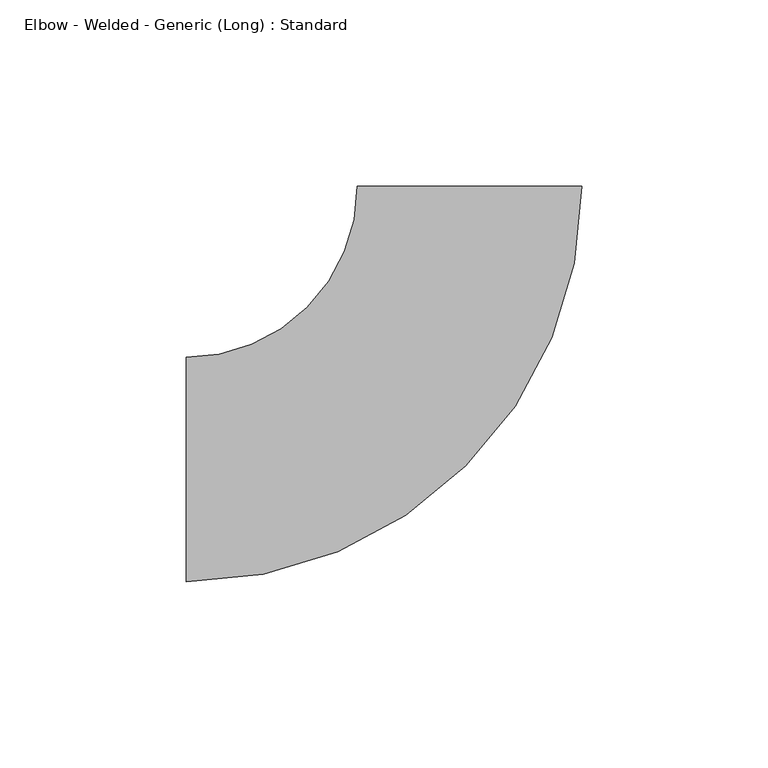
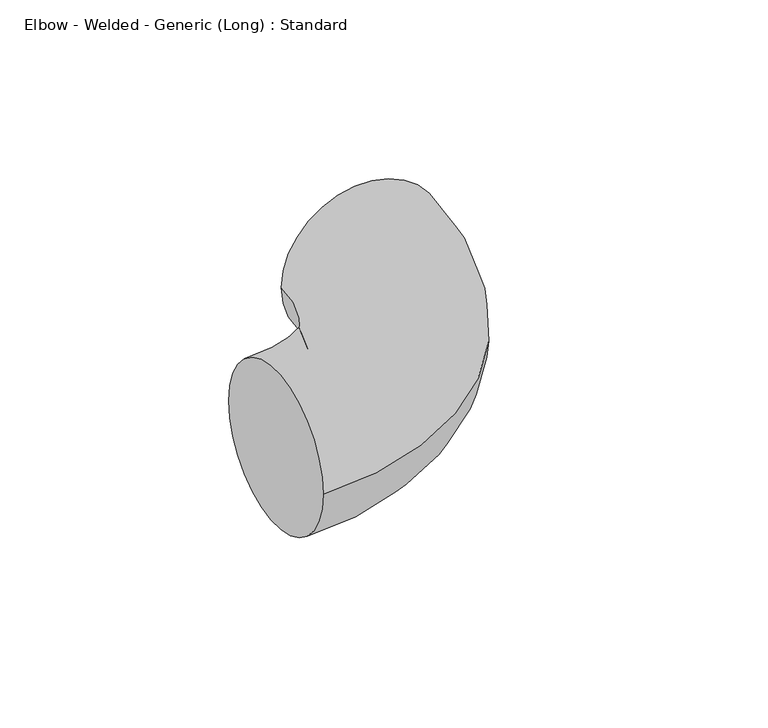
"""IFC4 building model written with IfcOpenShell, lengths in millimetres: pipe fitting geometry, Elbow - Welded - Generic (Long) : Standard."""

import ifcopenshell
import ifcopenshell.guid

model = None  # the IFC model being written
_history = None  # IfcOwnerHistory: only IFC2X3 demands one
_inside = {}  # id of a spatial element -> (the spatial element, [elements in it])
_under = {}  # id of a project, library or spatial element -> (it, [spatial elements below it])
_declared = {}  # id of a project -> (the project, [libraries it declares])
_typed = {}  # id of a type object -> (the type object, [elements of that type])
_made_of = {}  # id of a material, layer set ... -> (it, [elements and type objects made of it])


def new_model(schema):
    """Start an empty IFC model of exactly this schema.

    Asked for "IFC4X3", IfcOpenShell would pick the latest addendum, in which some entities
    have other attributes; the version numbers below select the first issue.
    IFC2X3 requires an IfcOwnerHistory on every rooted entity: one is made here for all.
    """
    global model, _history
    if schema == "IFC4X3":
        model = ifcopenshell.file(schema_version=(4, 3, 0, 0))
    else:
        model = ifcopenshell.file(schema=schema)
    _inside.clear()
    _under.clear()
    _declared.clear()
    _typed.clear()
    _made_of.clear()
    _history = None
    if model.schema == "IFC2X3":
        org = make("IfcOrganization", Name="unknown")
        user = make(
            "IfcPersonAndOrganization",
            ThePerson=make("IfcPerson", FamilyName="unknown"),
            TheOrganization=org,
        )
        app = make(
            "IfcApplication",
            ApplicationDeveloper=org,
            Version="unknown",
            ApplicationFullName="unknown",
            ApplicationIdentifier="unknown",
        )
        _history = make(
            "IfcOwnerHistory",
            OwningUser=user,
            OwningApplication=app,
            ChangeAction="ADDED",
            CreationDate=0,
        )
    return model


def make(cls, **values):
    """One entity of the class cls with the attributes given. An attribute that is None is left unset."""
    return model.create_entity(
        cls, **{name: value for name, value in values.items() if value is not None}
    )


def rooted(cls, **values):
    """An entity with a GlobalId (a new one), such as an element, a storey or a relation."""
    return make(cls, GlobalId=ifcopenshell.guid.new(), OwnerHistory=_history, **values)


def si_unit(unit_type, name, prefix=None):
    """IfcSIUnit, for example si_unit("LENGTHUNIT", "METRE", prefix="MILLI")."""
    return make("IfcSIUnit", UnitType=unit_type, Prefix=prefix, Name=name)


def assignment(units):
    """IfcUnitAssignment: the units of a project."""
    return None if units is None else make("IfcUnitAssignment", Units=units)


def point(xyz):
    """IfcCartesianPoint."""
    return None if xyz is None else make("IfcCartesianPoint", Coordinates=xyz)


def direction(xyz):
    """IfcDirection."""
    return None if xyz is None else make("IfcDirection", DirectionRatios=xyz)


def frame(location, z_axis=None, x_axis=None):
    """IfcAxis2Placement3D, a coordinate frame: its origin and axes. An axis left out is left unset."""
    return make(
        "IfcAxis2Placement3D",
        Location=point(location),
        Axis=direction(z_axis),
        RefDirection=direction(x_axis),
    )


def origin():
    """The frame at (0, 0, 0) with its axes left unset."""
    return frame((0.0, 0.0, 0.0))


def place(relative_to, where):
    """IfcLocalPlacement: puts the frame where relative to a parent placement (None: the world)."""
    return make(
        "IfcLocalPlacement", PlacementRelTo=relative_to, RelativePlacement=where
    )


def context(
    kind, dimensions, precision=None, world=None, true_north=None, identifier=None
):
    """IfcGeometricRepresentationContext, for example the 3D "Model" context."""
    return make(
        "IfcGeometricRepresentationContext",
        ContextIdentifier=identifier,
        ContextType=kind,
        CoordinateSpaceDimension=dimensions,
        Precision=precision,
        WorldCoordinateSystem=world,
        TrueNorth=true_north,
    )


def project(units=None, contexts=None):
    """IfcProject with its units and contexts."""
    return rooted(
        "IfcProject",
        Name="project",
        RepresentationContexts=contexts,
        UnitsInContext=assignment(units),
    )


def spatial(cls, under=None, at=None, **own):
    """A site, building, storey or space (cls), placed at a placement, below another one or the project."""
    s = rooted(cls, ObjectPlacement=at, **own)
    if under is not None:
        _under.setdefault(under.id(), (under, []))[1].append(s)
    return s


def circle_curve(where, radius):
    """IfcCircle in the frame where."""
    return make("IfcCircle", Position=where, Radius=radius)


def ellipse_curve(where, semi_axis1, semi_axis2):
    """IfcEllipse in the frame where."""
    return make(
        "IfcEllipse", Position=where, SemiAxis1=semi_axis1, SemiAxis2=semi_axis2
    )


def trimmed(basis, trim1, trim2, sense, master):
    """IfcTrimmedCurve: the piece of a basis curve between two trims."""
    return make(
        "IfcTrimmedCurve",
        BasisCurve=basis,
        Trim1=trim1,
        Trim2=trim2,
        SenseAgreement=sense,
        MasterRepresentation=master,
    )


def shape(context_of_items, identifier, shape_type, items):
    """IfcShapeRepresentation: the items that make up one representation, for example the "Body"."""
    return make(
        "IfcShapeRepresentation",
        ContextOfItems=context_of_items,
        RepresentationIdentifier=identifier,
        RepresentationType=shape_type,
        Items=items,
    )


def source(mapping_origin, context_of_items, identifier, shape_type, items):
    """IfcRepresentationMap: a shape defined once, which mapped items show again and again."""
    return make(
        "IfcRepresentationMap",
        MappingOrigin=mapping_origin,
        MappedRepresentation=shape(context_of_items, identifier, shape_type, items),
    )


def transform(
    local_origin,
    x_axis=None,
    y_axis=None,
    z_axis=None,
    scale=None,
    scale2=None,
    scale3=None,
    uniform=True,
):
    """IfcCartesianTransformationOperator3D, or its non-uniform kind. x_axis, y_axis, z_axis: its Axis1, 2, 3."""
    if uniform:
        return make(
            "IfcCartesianTransformationOperator3D",
            Axis1=direction(x_axis),
            Axis2=direction(y_axis),
            LocalOrigin=point(local_origin),
            Scale=scale,
            Axis3=direction(z_axis),
        )
    return make(
        "IfcCartesianTransformationOperator3DnonUniform",
        Axis1=direction(x_axis),
        Axis2=direction(y_axis),
        LocalOrigin=point(local_origin),
        Scale=scale,
        Axis3=direction(z_axis),
        Scale2=scale2,
        Scale3=scale3,
    )


def mapped(mapping_source, mapping_target):
    """IfcMappedItem: shows the shape of a source again, moved by a transform."""
    return make(
        "IfcMappedItem", MappingSource=mapping_source, MappingTarget=mapping_target
    )


def made_of(thing, what):
    """Note that an element or type object is made of a material, layer set ...; save() writes the relation."""
    if what is not None:
        _made_of.setdefault(what.id(), (what, []))[1].append(thing)
    return thing


def element(
    cls,
    number,
    at=None,
    inside=None,
    cuts=None,
    type_object=None,
    material=None,
    context=None,
    identifier="Body",
    shape_type=None,
    held_by="IfcProductDefinitionShape",
    body=None,
    shapes=None,
    **own,
):
    """One element of the class cls, such as IfcWall. Its Tag is "e" and its number.

    at: its placement. inside: the storey or other place that contains it. cuts: it is an
    opening in that element (IfcRelVoidsElement). A single representation is given by context,
    identifier, shape_type and body (its items); several are given by shapes. held_by: the class
    of the entity that holds the representations. save() writes the other relations.
    """
    e = rooted(cls, Tag="e%d" % number, ObjectPlacement=at, **own)
    if body is not None:
        shapes = [shape(context, identifier, shape_type, body)]
    if shapes is not None:
        e.Representation = make(held_by, Representations=shapes)
    if inside is not None:
        _inside.setdefault(inside.id(), (inside, []))[1].append(e)
    if cuts is not None:
        rooted(
            "IfcRelVoidsElement", RelatingBuildingElement=cuts, RelatedOpeningElement=e
        )
    if type_object is not None:
        _typed.setdefault(type_object.id(), (type_object, []))[1].append(e)
    return made_of(e, material)


def aggregate(whole, parts):
    """IfcRelAggregates: a whole, such as a stair, and the parts it consists of."""
    return rooted("IfcRelAggregates", RelatingObject=whole, RelatedObjects=parts)


def save(model, path):
    """Write the relations noted so far, then the file.

    IfcRelAggregates (storeys below a building ...), IfcRelContainedInSpatialStructure (elements
    in a storey), IfcRelDefinesByType, IfcRelAssociatesMaterial and IfcRelDeclares: one each for
    every whole, place, type object, material and project.
    """
    for whole, parts in _under.values():
        aggregate(whole, parts)
    for where, things in _inside.values():
        rooted(
            "IfcRelContainedInSpatialStructure",
            RelatedElements=things,
            RelatingStructure=where,
        )
    for kind, things in _typed.values():
        rooted("IfcRelDefinesByType", RelatedObjects=things, RelatingType=kind)
    for what, things in _made_of.values():
        rooted("IfcRelAssociatesMaterial", RelatedObjects=things, RelatingMaterial=what)
    for by, libraries in _declared.values():
        rooted("IfcRelDeclares", RelatingContext=by, RelatedDefinitions=libraries)
    model.write(path)


def plane_surface(at):
    """IfcPlane: the flat surface through the origin of the frame at, square to its z axis."""
    return make("IfcPlane", Position=at)


def revolved_surface(curve, axis_point, axis_direction):
    """IfcSurfaceOfRevolution: the curve turned about the line through axis_point along axis_direction."""
    return make(
        "IfcSurfaceOfRevolution",
        SweptCurve=make("IfcArbitraryOpenProfileDef", ProfileType="CURVE", Curve=curve),
        AxisPosition=make("IfcAxis1Placement", Location=point(axis_point), Axis=direction(axis_direction)),
    )


def advanced_brep(points, edges, surfaces, faces):
    """IfcAdvancedBrep: a solid bounded by faces that lie on surfaces and meet in shared edges.

    An edge is (start, end): straight between two places in points (the first is 0);
    or (start, end, curve); or (start, end, curve, False) where it runs against its curve.
    A face is (place in surfaces, loops), or (place, loops, False) where it looks against
    its surface's normal. A loop lists edges by number (the first is 1), with a minus sign
    where the edge is run from its end to its start. The first loop is the outer one.
    """
    corners = [point(p) for p in points]
    vertices = [make("IfcVertexPoint", VertexGeometry=c) for c in corners]
    made = []
    for start, end, *more in edges:
        made.append(
            make(
                "IfcEdgeCurve",
                EdgeStart=vertices[start],
                EdgeEnd=vertices[end],
                EdgeGeometry=more[0] if more else make("IfcPolyline", Points=[corners[start], corners[end]]),
                SameSense=more[1] if len(more) > 1 else True,
            )
        )
    hull = []
    for where, loops, *sense in faces:
        bounds = []
        for j, loop in enumerate(loops):
            ring = [make("IfcOrientedEdge", EdgeElement=made[abs(k) - 1], Orientation=k > 0) for k in loop]
            bounds.append(
                make(
                    "IfcFaceOuterBound" if j == 0 else "IfcFaceBound",
                    Bound=make("IfcEdgeLoop", EdgeList=ring),
                    Orientation=True,
                )
            )
        hull.append(make("IfcAdvancedFace", Bounds=bounds, FaceSurface=surfaces[where], SameSense=sense[0] if sense else True))
    return make("IfcAdvancedBrep", Outer=make("IfcClosedShell", CfsFaces=hull))


def elbow_welded_generic_long_standard_9bfb287f(model_context):
    return source(origin(), model_context, "Body", "AdvancedBrep", [
        advanced_brep(
        [(-76.2, -30.1625, 0.0), (-76.2, 30.1625, 0.0), (30.1672587, 76.1981162, 0.0), (-30.1577411, 76.2018835, 0.0)],
        [
            (0, 1, circle_curve(frame((-76.2, 0.0, 0.0), z_axis=(-1.0, 0.0, 0.0), x_axis=(0.0, 1.0, 0.0)), 30.1625)),
            (1, 0, circle_curve(frame((-76.2, 0.0, 0.0), z_axis=(-1.0, 0.0, 0.0), x_axis=(0.0, 1.0, 0.0)), 30.1625)),
            (2, 3, circle_curve(frame((0.0047588, 76.1999999, 0.0), z_axis=(6.24513439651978e-05, 0.9999999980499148, 0.0), x_axis=(-0.9999999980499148, 6.24513439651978e-05, 0.0)), 30.1625)),
            (3, 2, circle_curve(frame((0.0047588, 76.1999999, 0.0), z_axis=(6.24513439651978e-05, 0.9999999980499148, 0.0), x_axis=(-0.9999999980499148, 6.24513439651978e-05, 0.0)), 30.1625)),
            (3, 1, circle_curve(frame((-76.2, 76.2047589, 0.0), z_axis=(0.0, 0.0, -1.0), x_axis=(0.0, -1.0, 0.0)), 46.0422589)),
            (0, 2, circle_curve(frame((-76.2, 76.2047589, 0.0), z_axis=(0.0, 0.0, 1.0), x_axis=(0.0, -1.0, 0.0)), 106.3672589)),
        ],
        [
            plane_surface(frame((-76.2, 0.0, 0.0), z_axis=(-1.0, 0.0, 0.0), x_axis=(0.0, 0.0, 1.0))),
            plane_surface(frame((0.0047588, 76.1999999, 0.0), z_axis=(6.245134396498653e-05, 0.9999999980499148, 0.0), x_axis=(0.0, 0.0, 1.0))),
            revolved_surface(trimmed(ellipse_curve(frame((-76.2, 0.0, 0.0), z_axis=(-1.0, 0.0, 0.0), x_axis=(0.0, 1.0, 0.0)), 30.1625, 30.1625), [point((-76.2, -30.1625, 0.0))], [point((-76.2, 30.1625, 0.0))], True, "CARTESIAN"), (-76.2, 76.2047589, 0.0), (0.0, 0.0, 1.0)),
            revolved_surface(trimmed(ellipse_curve(frame((-76.2, 0.0, 0.0), z_axis=(-1.0, 0.0, 0.0), x_axis=(0.0, 1.0, 0.0)), 30.1625, 30.1625), [point((-76.2, 30.1625, 0.0))], [point((-76.2, -30.1625, 0.0))], True, "CARTESIAN"), (-76.2, 76.2047589, 0.0), (0.0, 0.0, 1.0)),
        ],
        [
            (0, [[1, 2]]),
            (1, [[3, 4]]),
            (2, [[5, -1, 6, -4]]),
            (3, [[-6, -2, -5, -3]]),
        ],
    ),
    ])


if __name__ == "__main__":
    model = new_model("IFC4")
    model_context = context("Model", 3, world=origin())
    ifc_project = project(units=[si_unit("LENGTHUNIT", "METRE", prefix="MILLI")], contexts=[model_context])
    site = spatial("IfcSite", under=ifc_project)
    building = spatial("IfcBuilding", under=site)
    placement = place(None, origin())
    elbow_welded_generic_long_standard_shape = elbow_welded_generic_long_standard_9bfb287f(model_context)
    element("IfcPipeFitting", 1, ObjectType="Elbow - Welded - Generic (Long) : Standard", at=placement, inside=building, context=model_context, shape_type="MappedRepresentation", body=[
        mapped(elbow_welded_generic_long_standard_shape, transform((0.0, 0.0, 0.0), x_axis=(1.0, 0.0, 0.0), y_axis=(0.0, 1.0, 0.0), z_axis=(0.0, 0.0, 1.0))),
    ])
    save(model, "model.ifc")
